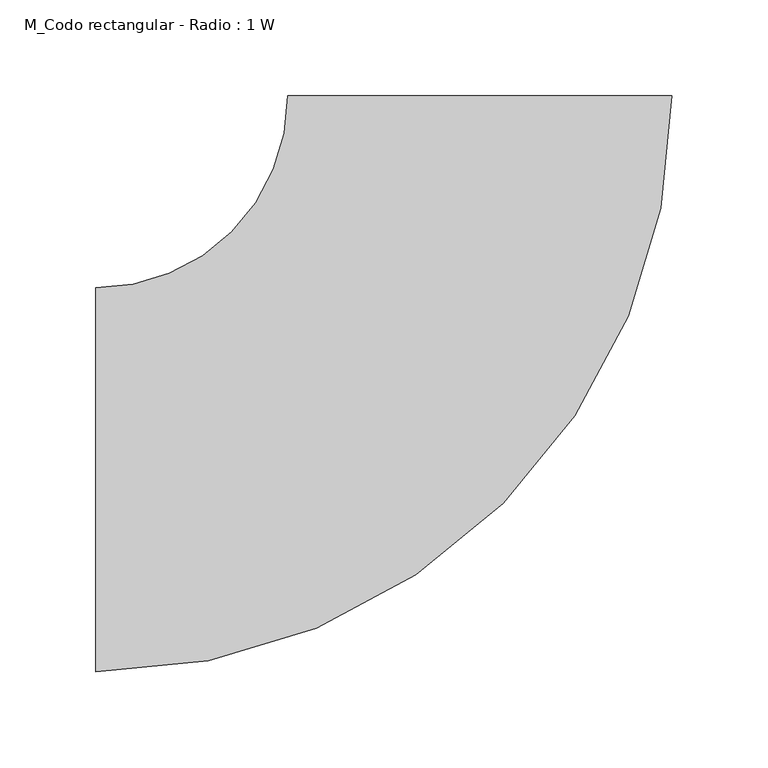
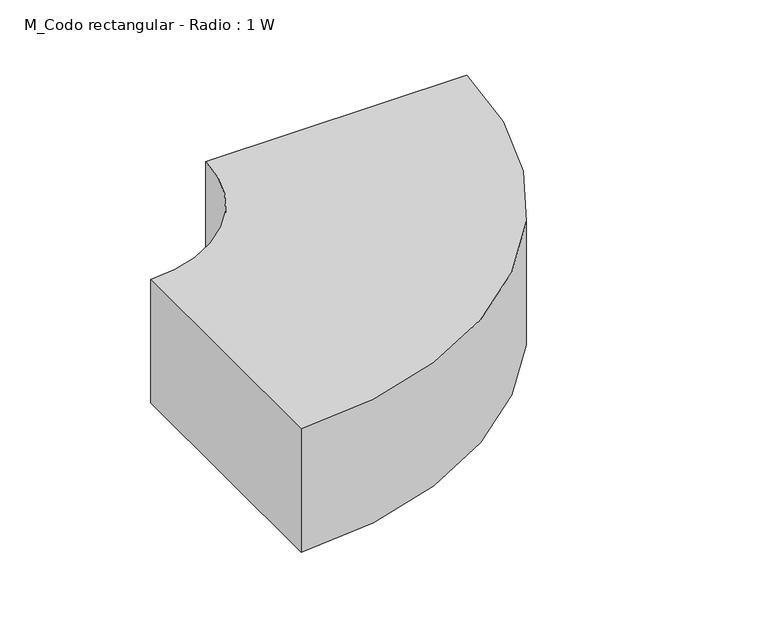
"""IFC4 building model written with IfcOpenShell, lengths in millimetres: duct fitting geometry, M_Codo rectangular - Radio : 1 W."""

from ifc_helpers import new_model, si_unit, point, frame, frame_2d, origin, place, context, project, spatial, polyline, circle_curve, trimmed, segment, composite_curve, outline, extrude, source, transform, mapped, element, save


def m_codo_rectangular_radio_1_w_0b4db237(model_context):
    return source(origin(), model_context, "Body", "SweptSolid", [
        extrude(outline(composite_curve([segment(trimmed(circle_curve(frame_2d((-200.0, 200.0)), 300.0), [point((100.0, 200.0))], [point((-200.0, -100.0))], False, "CARTESIAN"), True, "CONTINUOUS"), segment(polyline([(-200.0, -100.0), (-200.0, 100.0)]), True, "CONTINUOUS"), segment(trimmed(circle_curve(frame_2d((-200.0, 200.0)), 100.0), [point((-200.0, 100.0))], [point((-100.0, 200.0))], True, "CARTESIAN"), True, "CONTINUOUS"), segment(polyline([(-100.0, 200.0), (100.0, 200.0)]), True, "CONTINUOUS")], self_intersect=False)), frame((0.0, 0.0, -50.0), z_axis=(0.0, 0.0, 1.0), x_axis=(1.0, 0.0, 0.0)), (0.0, 0.0, 1.0), 100.0),
    ])


if __name__ == "__main__":
    model = new_model("IFC4")
    model_context = context("Model", 3, world=origin())
    ifc_project = project(units=[si_unit("LENGTHUNIT", "METRE", prefix="MILLI")], contexts=[model_context])
    site = spatial("IfcSite", under=ifc_project)
    building = spatial("IfcBuilding", under=site)
    placement = place(None, origin())
    m_codo_rectangular_radio_1_w_shape = m_codo_rectangular_radio_1_w_0b4db237(model_context)
    element("IfcDuctFitting", 1, ObjectType="M_Codo rectangular - Radio : 1 W", at=placement, inside=building, context=model_context, shape_type="MappedRepresentation", body=[
        mapped(m_codo_rectangular_radio_1_w_shape, transform((0.0, 0.0, 0.0), x_axis=(1.0, 0.0, 0.0), y_axis=(0.0, 1.0, 0.0), z_axis=(0.0, 0.0, 1.0))),
    ])
    save(model, "model.ifc")
